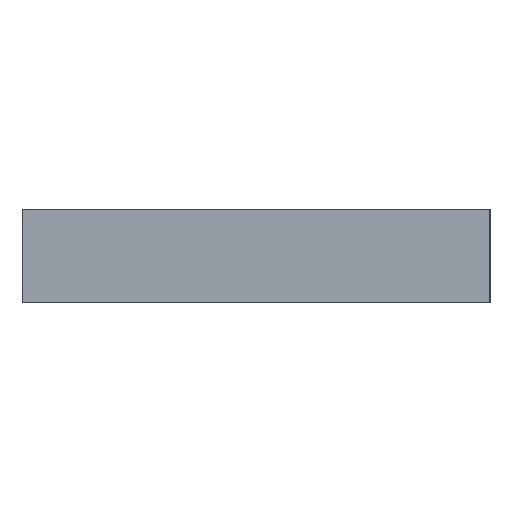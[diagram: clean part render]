
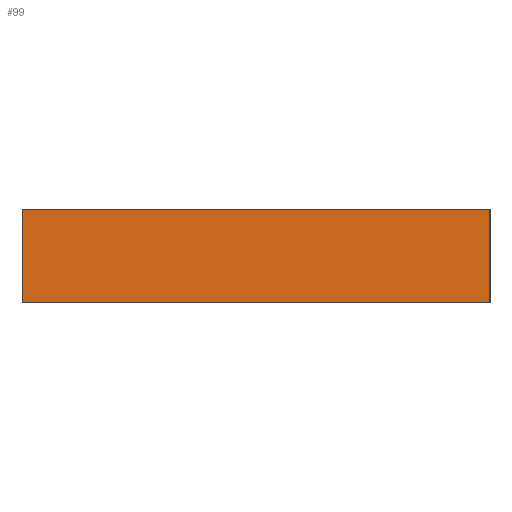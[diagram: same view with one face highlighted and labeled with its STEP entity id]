
A CAD part, left-side view. The second image highlights one B-rep face of the part: STEP entity #99.
In plain terms, the highlighted planar face has unit normal (-1, 0, 0).
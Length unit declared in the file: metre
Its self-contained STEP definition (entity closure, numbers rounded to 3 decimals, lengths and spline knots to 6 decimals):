
#16=ORIENTED_EDGE('',*,*,#40,.T.);
#17=ORIENTED_EDGE('',*,*,#41,.F.);
#18=ORIENTED_EDGE('',*,*,#42,.F.);
#19=ORIENTED_EDGE('',*,*,#37,.T.);
#37=EDGE_CURVE('',#50,#48,#57,.T.);
#40=EDGE_CURVE('',#48,#52,#60,.T.);
#41=EDGE_CURVE('',#53,#52,#61,.T.);
#42=EDGE_CURVE('',#50,#53,#62,.T.);
#48=VERTEX_POINT('',#152);
#50=VERTEX_POINT('',#155);
#52=VERTEX_POINT('',#161);
#53=VERTEX_POINT('',#163);
#57=LINE('',#154,#69);
#60=LINE('',#160,#72);
#61=LINE('',#162,#73);
#62=LINE('',#164,#74);
#69=VECTOR('',#128,1.);
#72=VECTOR('',#133,1.);
#73=VECTOR('',#134,1.);
#74=VECTOR('',#135,1.);
#81=EDGE_LOOP('',(#16,#17,#18,#19));
#87=FACE_BOUND('',#81,.T.);
#93=PLANE('',#118);
#99=ADVANCED_FACE('',(#87),#93,.F.);
#118=AXIS2_PLACEMENT_3D('',#159,#131,#132);
#128=DIRECTION('',(0.,0.,-1.));
#131=DIRECTION('',(1.,0.,0.));
#132=DIRECTION('',(0.,0.,-1.));
#133=DIRECTION('',(0.,-1.,0.));
#134=DIRECTION('',(0.,0.,-1.));
#135=DIRECTION('',(0.,-1.,0.));
#152=CARTESIAN_POINT('',(-0.061833,-0.271916,0.));
#154=CARTESIAN_POINT('',(-0.061833,-0.271916,0.0015));
#155=CARTESIAN_POINT('',(-0.061833,-0.271916,0.0015));
#159=CARTESIAN_POINT('',(-0.061833,-0.275666,0.0015));
#160=CARTESIAN_POINT('',(-0.061833,-0.275666,0.));
#161=CARTESIAN_POINT('',(-0.061833,-0.279416,0.));
#162=CARTESIAN_POINT('',(-0.061833,-0.279416,0.0015));
#163=CARTESIAN_POINT('',(-0.061833,-0.279416,0.0015));
#164=CARTESIAN_POINT('',(-0.061833,-0.275666,0.0015));
